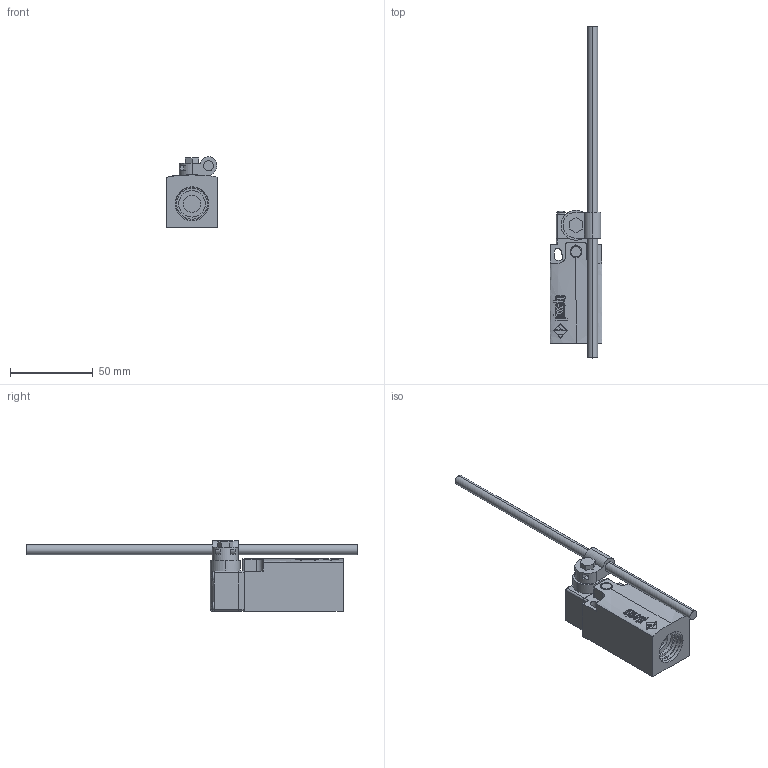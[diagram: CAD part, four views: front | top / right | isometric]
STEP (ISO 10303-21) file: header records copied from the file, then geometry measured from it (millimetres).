
FILE_DESCRIPTION (( 'STEP AP203' ), '1' );
FILE_NAME ('ZF_STEP_FR_x69.STEP', '2024-02-26T09:02:25', ( '' ), ( '' ), 'SwSTEP 2.0', 'SolidWorks 2023', '' );
FILE_SCHEMA (( 'CONFIG_CONTROL_DESIGN' ));
Length unit declared in the file: millimetre
Products named in the file (9): Pizzato_Supporto_leve_6325_Versione per aste; Pizzato_Asta_Ø6x200; ZF_STEP_VF_TE38; Pizzato_vite_Per aste; ZF_STEP_VN_A00LH; Pizzato_Custodia_FR_3dweb; ZF_STEP_FR_x69; Pizzato_Supporto_TE38
Assembly tree (8 placements, depth 3):
  ZF_STEP_FR_x69
    Pizzato_Custodia_FR_3dweb
      Pizzato_Custodia_FR_3dweb
    ZF_STEP_VF_TE38
      Pizzato_Supporto_TE38
    ZF_STEP_VN_A00LH
      Pizzato_Supporto_leve_6325_Versione per aste
      Pizzato_vite_Per aste
      Pizzato_Asta_Ø6x200
Bounding box: 31.2 x 200 x 42.6 mm (x, y, z)
Volume: 73352.1 mm3; surface area: 21633.8 mm2
Topology: 5 solids, 5 shells, 594 faces, 1608 edges, 1070 vertices
Faces by surface type: plane 328, cylinder 143, bspline 114, sphere 8, torus 1
Entity records: 23586 total; most frequent: CARTESIAN_POINT 8272, ORIENTED_EDGE 3216, DIRECTION 2611, EDGE_CURVE 1608, VERTEX_POINT 1070, VECTOR 1005, LINE 1005, AXIS2_PLACEMENT_3D 803
